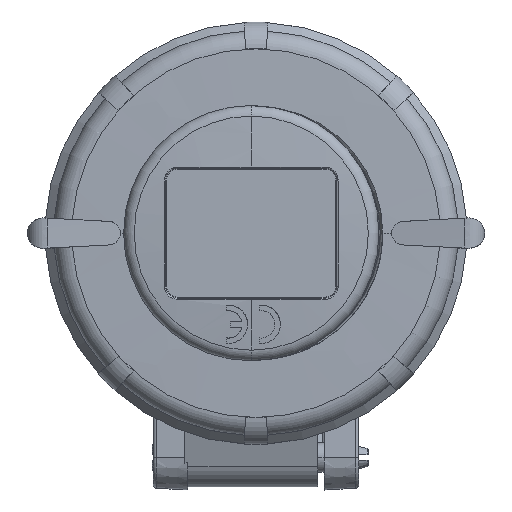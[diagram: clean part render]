
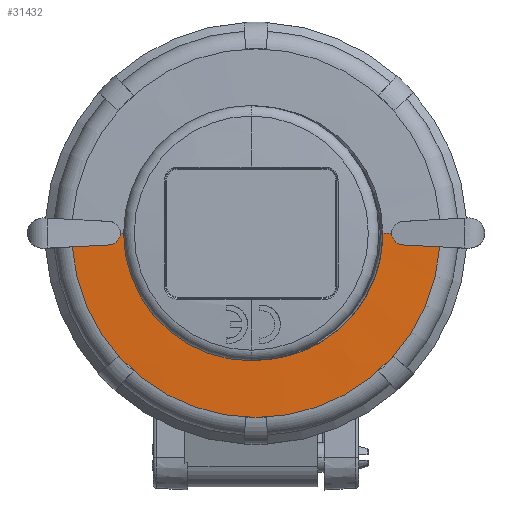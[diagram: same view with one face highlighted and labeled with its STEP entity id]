
A CAD part, top view. The second image highlights one B-rep face of the part: STEP entity #31432.
In plain terms, the highlighted free-form (B-spline) face has degree [3, 3] with [4, 4] control points.
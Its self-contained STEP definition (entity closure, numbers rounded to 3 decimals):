
#1139=CARTESIAN_POINT('',(-24.895,-1.997,
9.372));
#1140=CARTESIAN_POINT('',(-25.592,-2.034,
9.36));
#1141=CARTESIAN_POINT('',(-26.984,-2.107,
9.33));
#1142=CARTESIAN_POINT('',(-29.073,-2.216,
9.265));
#1143=CARTESIAN_POINT('',(-30.465,-2.289,
9.208));
#1144=CARTESIAN_POINT('',(-31.16,-2.326,
9.176));
#1266=CARTESIAN_POINT('',(-23.,0.,
9.395));
#1304=CARTESIAN_POINT('',(-22.05,0.,
9.4));
#1306=CARTESIAN_POINT('',(-21.5,0.,
-202.6));
#1307=DIRECTION('',(0.,-1.,0.));
#1308=DIRECTION('',(-0.003,0.,1.));
#1309=AXIS2_PLACEMENT_3D('',#1306,#1307,#1308);
#2166=CARTESIAN_POINT('',(-22.05,0.,
9.4));
#2167=CARTESIAN_POINT('',(-22.049,-0.908,
9.4));
#2168=CARTESIAN_POINT('',(-21.935,-2.706,
9.4));
#2169=CARTESIAN_POINT('',(-21.42,-5.37,
9.4));
#2170=CARTESIAN_POINT('',(-20.573,-7.94,
9.4));
#2171=CARTESIAN_POINT('',(-19.407,-10.382,
9.4));
#2172=CARTESIAN_POINT('',(-17.942,-12.655,
9.4));
#2173=CARTESIAN_POINT('',(-16.202,-14.723,
9.4));
#2174=CARTESIAN_POINT('',(-14.214,-16.554,
9.4));
#2175=CARTESIAN_POINT('',(-12.011,-18.119,
9.4));
#2176=CARTESIAN_POINT('',(-9.623,-19.394,
9.4));
#2177=CARTESIAN_POINT('',(-7.944,-20.033,
9.4));
#2178=CARTESIAN_POINT('',(-7.08,-20.301,
9.4));
#2180=CARTESIAN_POINT('',(0.,0.,9.4));
#2181=DIRECTION('',(0.,0.,1.));
#2182=DIRECTION('',(-0.329,-0.944,0.));
#2183=AXIS2_PLACEMENT_3D('',#2180,#2181,#2182);
#2185=CARTESIAN_POINT('',(21.5,0.,
-202.6));
#2186=DIRECTION('',(0.,1.,0.));
#2187=DIRECTION('',(0.,0.,1.));
#2188=AXIS2_PLACEMENT_3D('',#2185,#2186,#2187);
#2190=CARTESIAN_POINT('',(0.,0.,9.176));
#2191=DIRECTION('',(0.,0.,-1.));
#2192=DIRECTION('',(0.997,-0.074,0.));
#2193=AXIS2_PLACEMENT_3D('',#2190,#2191,#2192);
#2210=CARTESIAN_POINT('',(24.895,-1.997,9.372));
#2211=CARTESIAN_POINT('',(24.75,-1.99,9.374));
#2212=CARTESIAN_POINT('',(24.461,-1.942,9.378));
#2213=CARTESIAN_POINT('',(24.057,-1.782,9.384));
#2214=CARTESIAN_POINT('',(23.693,-1.535,9.388));
#2215=CARTESIAN_POINT('',(23.391,-1.214,9.391));
#2216=CARTESIAN_POINT('',(23.168,-0.84,
9.393));
#2217=CARTESIAN_POINT('',(23.03,-0.427,
9.394));
#2218=CARTESIAN_POINT('',(23.,-0.142,
9.395));
#2219=CARTESIAN_POINT('',(23.,0.,
9.395));
#2235=CARTESIAN_POINT('',(23.,0.,
9.395));
#2371=CARTESIAN_POINT('',(31.16,-2.326,9.176));
#2372=CARTESIAN_POINT('',(30.465,-2.289,9.208));
#2373=CARTESIAN_POINT('',(29.073,-2.216,9.265));
#2374=CARTESIAN_POINT('',(26.984,-2.107,9.33));
#2375=CARTESIAN_POINT('',(25.592,-2.034,9.36));
#2376=CARTESIAN_POINT('',(24.895,-1.997,9.372));
#2787=CARTESIAN_POINT('',(-23.,0.,
9.395));
#2788=CARTESIAN_POINT('',(-23.,-0.147,
9.395));
#2789=CARTESIAN_POINT('',(-23.032,-0.44,
9.394));
#2790=CARTESIAN_POINT('',(-23.174,-0.855,
9.393));
#2791=CARTESIAN_POINT('',(-23.401,-1.227,
9.391));
#2792=CARTESIAN_POINT('',(-23.703,-1.543,
9.388));
#2793=CARTESIAN_POINT('',(-24.063,-1.784,
9.384));
#2794=CARTESIAN_POINT('',(-24.463,-1.943,
9.378));
#2795=CARTESIAN_POINT('',(-24.75,-1.99,
9.374));
#2796=CARTESIAN_POINT('',(-24.895,-1.997,
9.372));
#24269=CARTESIAN_POINT('',(-24.895,-1.997,
9.372));
#24270=VERTEX_POINT('',#24269);
#24271=VERTEX_POINT('',#1144);
#24288=VERTEX_POINT('',#1266);
#24290=VERTEX_POINT('',#1304);
#24294=VERTEX_POINT('',#2235);
#24295=CARTESIAN_POINT('',(21.5,0.,9.4));
#24296=VERTEX_POINT('',#24295);
#24302=CARTESIAN_POINT('',(-7.08,-20.301,9.4));
#24304=VERTEX_POINT('',#24302);
#24446=VERTEX_POINT('',#2210);
#24447=VERTEX_POINT('',#2371);
#31400=CARTESIAN_POINT('',(21.5,0.,
9.4));
#31401=CARTESIAN_POINT('',(24.75,0.,
9.4));
#31402=CARTESIAN_POINT('',(28.,0.,
9.325));
#31403=CARTESIAN_POINT('',(31.247,0.,
9.176));
#31404=CARTESIAN_POINT('',(21.5,-43.,
9.4));
#31405=CARTESIAN_POINT('',(24.75,-49.501,
9.4));
#31406=CARTESIAN_POINT('',(28.,-56.,
9.325));
#31407=CARTESIAN_POINT('',(31.247,-62.494,
9.176));
#31408=CARTESIAN_POINT('',(-21.5,-43.,
9.4));
#31409=CARTESIAN_POINT('',(-24.75,-49.501,
9.4));
#31410=CARTESIAN_POINT('',(-28.,-56.,
9.325));
#31411=CARTESIAN_POINT('',(-31.247,-62.494,
9.176));
#31412=CARTESIAN_POINT('',(-21.5,0.,
9.4));
#31413=CARTESIAN_POINT('',(-24.75,0.,
9.4));
#31414=CARTESIAN_POINT('',(-28.,0.,
9.325));
#31415=CARTESIAN_POINT('',(-31.247,0.,
9.176));
#31416=(BOUNDED_SURFACE()B_SPLINE_SURFACE(3,3,((#31400,#31401,#31402,#31403),(
#31404,#31405,#31406,#31407),(#31408,#31409,#31410,#31411),(#31412,#31413,
#31414,#31415)),.UNSPECIFIED.,.F.,.F.,.F.)B_SPLINE_SURFACE_WITH_KNOTS((4,4),(4,
4),(0.,1.),(0.,1.),.UNSPECIFIED.)GEOMETRIC_REPRESENTATION_ITEM()RATIONAL_B_SPLINE_SURFACE(((2.,2.,2.,
2.),(0.667,0.667,0.667,
0.667),(0.667,0.667,0.667,
0.667),(2.,2.,2.,
2.)))REPRESENTATION_ITEM('')SURFACE());
#31417=ORIENTED_EDGE('15404',*,*,#29829,.T.);
#31418=ORIENTED_EDGE('15535',*,*,#31357,.T.);
#31419=ORIENTED_EDGE('15397',*,*,#29793,.T.);
#31421=ORIENTED_EDGE('15536',*,*,#31420,.F.);
#31423=ORIENTED_EDGE('15537',*,*,#31422,.F.);
#31425=ORIENTED_EDGE('15538',*,*,#31424,.T.);
#31426=ORIENTED_EDGE('15370',*,*,#29542,.F.);
#31428=ORIENTED_EDGE('15539',*,*,#31427,.F.);
#31429=ORIENTED_EDGE('15393',*,*,#29783,.F.);
#31430=EDGE_LOOP('19758',(#31417,#31418,#31419,#31421,#31423,#31425,#31426,
#31428,#31429));
#31431=FACE_OUTER_BOUND('19758',#31430,.F.);
#1145=B_SPLINE_CURVE_WITH_KNOTS('15370',3,(#1139,#1140,#1141,#1142,#1143,#1144),
.UNSPECIFIED.,.F.,.F.,(4,1,1,4),(0.,0.333,0.667,1.),
.UNSPECIFIED.);
#1310=CIRCLE('15393',#1309,212.);
#2179=B_SPLINE_CURVE_WITH_KNOTS('15404',3,(#2166,#2167,#2168,#2169,#2170,#2171,
#2172,#2173,#2174,#2175,#2176,#2177,#2178),.UNSPECIFIED.,.F.,.F.,(4,1,1,1,1,1,1,
1,1,1,4),(0.,0.1,0.2,0.3,0.4,0.5,0.6,0.7,0.8,0.9,1.),
.UNSPECIFIED.);
#2184=CIRCLE('15535',#2183,21.5);
#2189=CIRCLE('15397',#2188,212.);
#2194=CIRCLE('15538',#2193,31.247);
#2220=B_SPLINE_CURVE_WITH_KNOTS('15536',3,(#2210,#2211,#2212,#2213,#2214,#2215,
#2216,#2217,#2218,#2219),.UNSPECIFIED.,.F.,.F.,(4,1,1,1,1,1,1,4),(0.,
0.143,0.286,0.429,0.571,
0.714,0.857,1.),.UNSPECIFIED.);
#2377=B_SPLINE_CURVE_WITH_KNOTS('15537',3,(#2371,#2372,#2373,#2374,#2375,#2376),
.UNSPECIFIED.,.F.,.F.,(4,1,1,4),(0.,0.333,0.667,1.),
.UNSPECIFIED.);
#2797=B_SPLINE_CURVE_WITH_KNOTS('15539',3,(#2787,#2788,#2789,#2790,#2791,#2792,
#2793,#2794,#2795,#2796),.UNSPECIFIED.,.F.,.F.,(4,1,1,1,1,1,1,4),(0.,
0.143,0.286,0.429,0.571,
0.714,0.857,1.),.UNSPECIFIED.);
#29542=EDGE_CURVE('15370',#24270,#24271,#1145,.T.);
#29783=EDGE_CURVE('15393',#24290,#24288,#1310,.T.);
#29793=EDGE_CURVE('15397',#24296,#24294,#2189,.T.);
#29829=EDGE_CURVE('15404',#24290,#24304,#2179,.T.);
#31357=EDGE_CURVE('15535',#24304,#24296,#2184,.T.);
#31420=EDGE_CURVE('15536',#24446,#24294,#2220,.T.);
#31422=EDGE_CURVE('15537',#24447,#24446,#2377,.T.);
#31424=EDGE_CURVE('15538',#24447,#24271,#2194,.T.);
#31427=EDGE_CURVE('15539',#24288,#24270,#2797,.T.);
#31432=ADVANCED_FACE('19758',(#31431),#31416,.T.);
